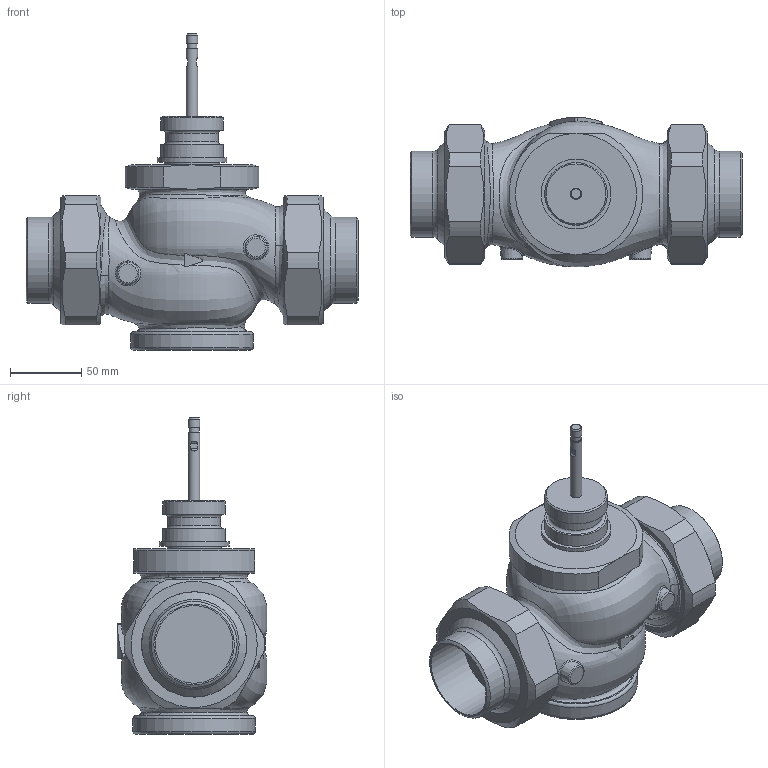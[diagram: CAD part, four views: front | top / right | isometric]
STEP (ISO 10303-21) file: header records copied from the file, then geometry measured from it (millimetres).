
FILE_DESCRIPTION(/* description */ (''),/* implementation_level */ '2;1');
FILE_NAME(/* name */ 'rv122_L_dn50_W.stp',/* time_stamp */ '2025-07-08T11:35:17+02:00',/* author */ ('Jan Novák'),/* organization */ ('LDM'),/* preprocessor_version */ 'ST-DEVELOPER v18.102',/* originating_system */ 'SIEMENS PLM Software NX2206.3001',/* authorisation */ '');
FILE_SCHEMA (('AUTOMOTIVE_DESIGN { 1 0 10303 214 3 1 1 1 }'));
Length unit declared in the file: millimetre
Products named in the file (1): rv_0763-766_rv122_L_dn50_objects
Bounding box: 233 x 104.99 x 222 mm (x, y, z)
Volume: 1491799 mm3; surface area: 166897.9 mm2
Topology: 7 solids, 7 shells, 158 faces, 357 edges, 231 vertices
Faces by surface type: plane 57, cylinder 51, cone 27, bspline 13, torus 10
Full cylindrical faces by diameter (mm): 7 x1, 8 x2, 37 x1, 38 x1, 44 x2, 49 x1, 54.5 x2, 60.3 x2, 64 x2, 73.8 x2, 74 x2, 77.8 x2, 78 x2, 78.576 x2, 81.534 x2, 86 x1
Entity records: 13158 total; most frequent: CARTESIAN_POINT 9956, DIRECTION 609, ORIENTED_EDGE 522, AXIS2_PLACEMENT_3D 280, EDGE_CURVE 261, EDGE_LOOP 252, VERTEX_POINT 199, FACE_BOUND 182
